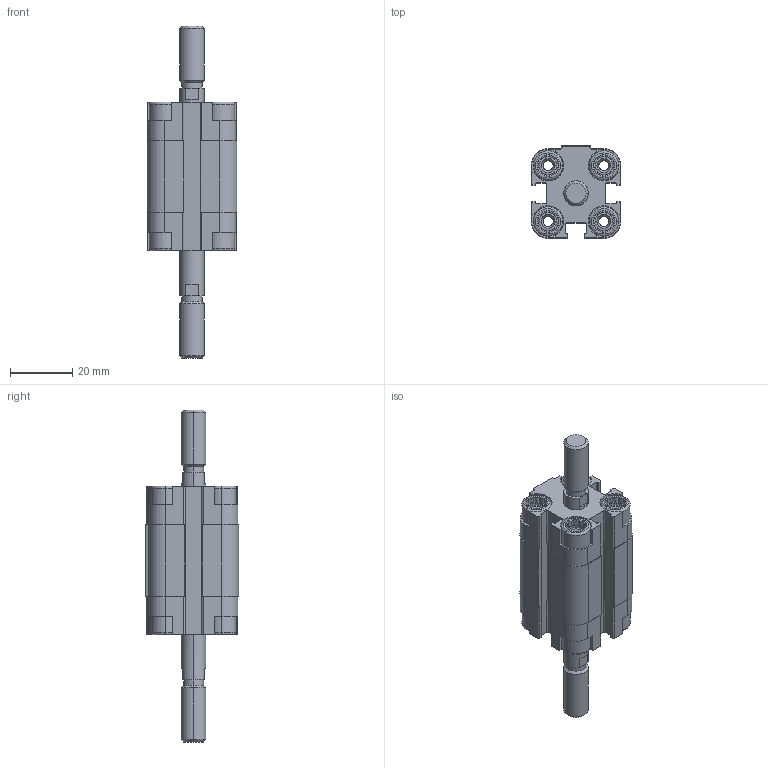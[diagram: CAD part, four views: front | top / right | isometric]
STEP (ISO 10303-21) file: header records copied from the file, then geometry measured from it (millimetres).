
FILE_DESCRIPTION (( 'STEP AP203' ), '1' );
FILE_NAME ('CDVU16-10M-P.STEP', '2020-07-21T15:03:44', ( '' ), ( '' ), 'SwSTEP 2.0', 'SolidWorks 2019', '' );
FILE_SCHEMA (( 'CONFIG_CONTROL_DESIGN' ));
Length unit declared in the file: millimetre
Products named in the file (1): CDVU16-10M-P
Bounding box: 29 x 30 x 107 mm (x, y, z)
Volume: 31962.6 mm3; surface area: 17820.7 mm2
Topology: 2 solids, 2 shells, 566 faces, 1504 edges, 978 vertices
Faces by surface type: plane 338, cylinder 164, cone 48, torus 16
Entity records: 17771 total; most frequent: CARTESIAN_POINT 3621, ORIENTED_EDGE 3000, DIRECTION 2850, EDGE_CURVE 1500, VERTEX_POINT 978, AXIS2_PLACEMENT_3D 975, LINE 900, VECTOR 900
